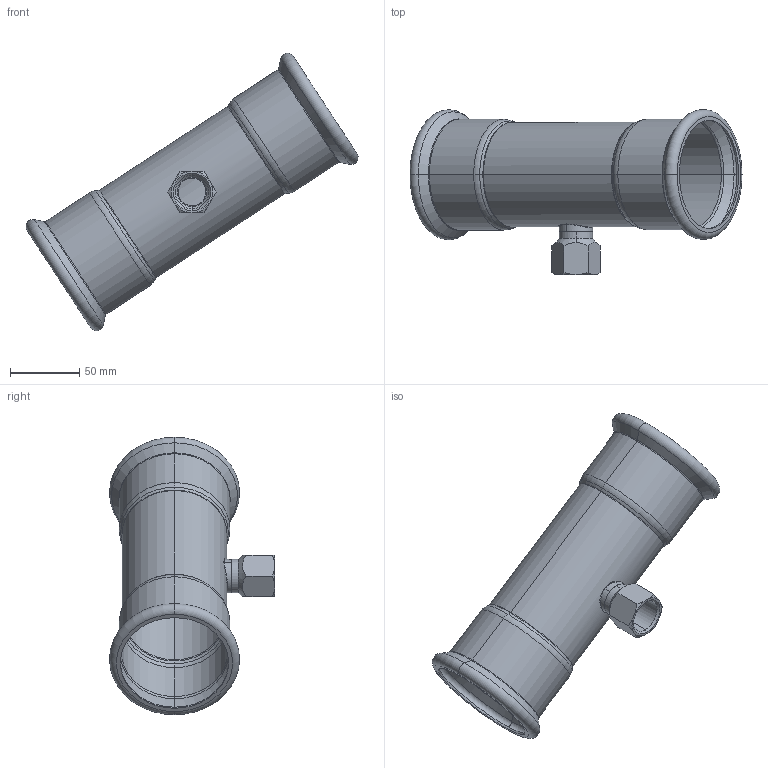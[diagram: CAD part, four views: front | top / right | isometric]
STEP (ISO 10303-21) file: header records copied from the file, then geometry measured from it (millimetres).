
FILE_DESCRIPTION (( 'STEP AP203' ), '1' );
FILE_NAME ('GDA5256.STEP', '2019-01-14T01:31:24', ( '' ), ( '' ), 'SwSTEP 2.0', 'SolidWorks 2015', '' );
FILE_SCHEMA (( 'CONFIG_CONTROL_DESIGN' ));
Length unit declared in the file: millimetre
Products named in the file (3): T(R)-¢ñ-76.1¡Á22''; GDA5256; ITC-I-03-22℅?
Assembly tree (2 placements, depth 2):
  GDA5256
    ITC-I-03-22℅?
    T(R)-¢ñ-76.1¡Á22''
Bounding box: 239.09 x 118.84 x 199.85 mm (x, y, z)
Volume: 97812.9 mm3; surface area: 125348.5 mm2
Topology: 2 solids, 2 shells, 103 faces, 218 edges, 122 vertices
Faces by surface type: torus 32, cone 28, cylinder 26, plane 13, bspline 4
Entity records: 4134 total; most frequent: CARTESIAN_POINT 1601, DIRECTION 526, ORIENTED_EDGE 436, AXIS2_PLACEMENT_3D 236, EDGE_CURVE 218, CIRCLE 132, VERTEX_POINT 122, EDGE_LOOP 112
